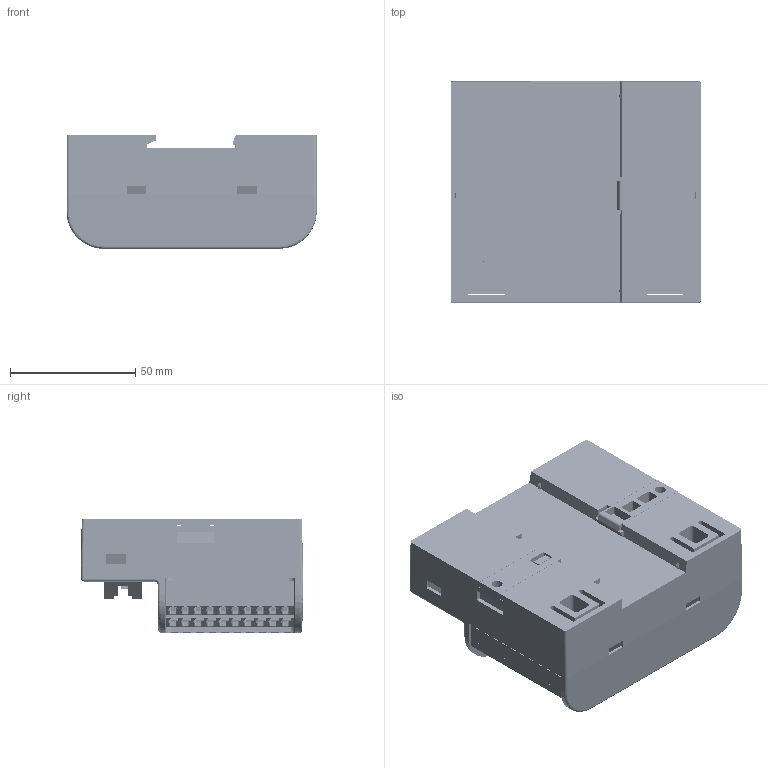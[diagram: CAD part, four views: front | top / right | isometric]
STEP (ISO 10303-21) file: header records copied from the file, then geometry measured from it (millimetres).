
FILE_DESCRIPTION(/* description */ (''),/* implementation_level */ '2;1');
FILE_NAME(/* name */ '22-152-1c.stp',/* time_stamp */ '2022-01-19T14:39:36+08:00',/* author */ (''),/* organization */ (''),/* preprocessor_version */ 'ST-DEVELOPER v16',/* originating_system */ 'SIEMENS PLM Software NX 10.0',/* authorisation */ '');
FILE_SCHEMA (('AP203_CONFIGURATION_CONTROLLED_3D_DESIGN_OF_MECHANICAL_PARTS_AND_ASSEMBLIES_MIM_LF { 1 0 10303 403 2 1 2}'));
Products named in the file (1): 73494D580734xm5d
Bounding box: 100.3 x 88.8 x 45.4 mm (x, y, z)
Volume: 285003.7 mm3; surface area: 113391.8 mm2
Topology: 22 solids, 443 shells, 21155 faces, 54018 edges, 33631 vertices
Faces by surface type: plane 11920, cylinder 5238, cone 2302, extrusion 1434, sphere 174, bspline 62, torus 25
Entity records: 643395 total; most frequent: CARTESIAN_POINT 129296, ORIENTED_EDGE 107692, DIRECTION 104634, EDGE_CURVE 53846, VECTOR 38402, LINE 36968, VERTEX_POINT 33631, AXIS2_PLACEMENT_3D 33116
